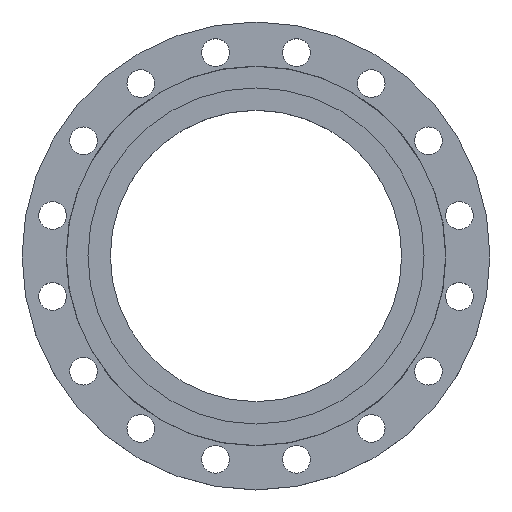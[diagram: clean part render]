
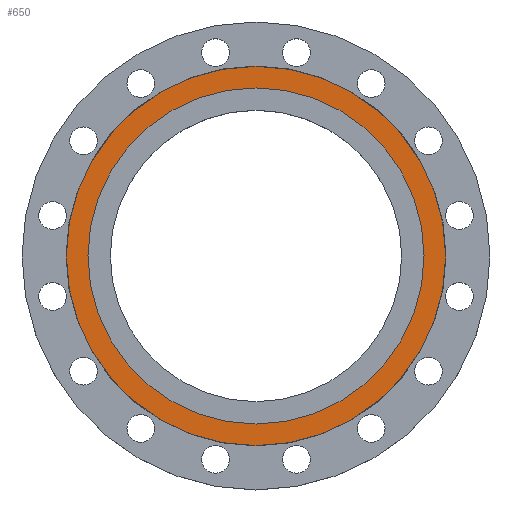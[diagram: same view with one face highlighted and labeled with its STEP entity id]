
A CAD part, top view. The second image highlights one B-rep face of the part: STEP entity #650.
In plain terms, the highlighted planar face has unit normal (0, 0, 1).
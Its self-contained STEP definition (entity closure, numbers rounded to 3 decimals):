
#13 = EDGE_CURVE ( 'NONE', #863, #1200, #429, .T. ) ;
#203 = DIRECTION ( 'NONE',  ( -1., 0., 0. ) ) ;
#207 = DIRECTION ( 'NONE',  ( 0., 0., -1. ) ) ;
#246 = CARTESIAN_POINT ( 'NONE',  ( 0., 0., 0. ) ) ;
#269 = DIRECTION ( 'NONE',  ( 0., 0., -1. ) ) ;
#271 = DIRECTION ( 'NONE',  ( -1., 0., 0. ) ) ;
#300 = CARTESIAN_POINT ( 'NONE',  ( 0., 0., 0. ) ) ;
#326 = AXIS2_PLACEMENT_3D ( 'NONE', #544, #542, #541 ) ;
#362 = CIRCLE ( 'NONE', #1180, 237. ) ;
#429 = CIRCLE ( 'NONE', #439, 237. ) ;
#438 = CARTESIAN_POINT ( 'NONE',  ( -237., 0., 0. ) ) ;
#439 = AXIS2_PLACEMENT_3D ( 'NONE', #772, #770, #769 ) ;
#541 = DIRECTION ( 'NONE',  ( 1., 0., 0. ) ) ;
#542 = DIRECTION ( 'NONE',  ( 0., 0., 1. ) ) ;
#544 = CARTESIAN_POINT ( 'NONE',  ( 0., 0., 0. ) ) ;
#545 = PLANE ( 'NONE',  #326 ) ;
#548 = FACE_BOUND ( 'NONE', #1235, .T. ) ;
#549 = FACE_OUTER_BOUND ( 'NONE', #1273, .T. ) ;
#602 = CARTESIAN_POINT ( 'NONE',  ( -267.5, 0., 0. ) ) ;
#650 = ADVANCED_FACE ( 'NONE', ( #549, #548 ), #545, .T. ) ;
#769 = DIRECTION ( 'NONE',  ( -1., 0., 0. ) ) ;
#770 = DIRECTION ( 'NONE',  ( 0., 0., -1. ) ) ;
#772 = CARTESIAN_POINT ( 'NONE',  ( 0., 0., 0. ) ) ;
#844 = DIRECTION ( 'NONE',  ( -1., 0., 0. ) ) ;
#845 = DIRECTION ( 'NONE',  ( 0., 0., -1. ) ) ;
#848 = CARTESIAN_POINT ( 'NONE',  ( 0., 0., 0. ) ) ;
#863 = VERTEX_POINT ( 'NONE', #438 ) ;
#1043 = EDGE_CURVE ( 'NONE', #1200, #863, #362, .T. ) ;
#1121 = CARTESIAN_POINT ( 'NONE',  ( 267.5, 0., 0. ) ) ;
#1180 = AXIS2_PLACEMENT_3D ( 'NONE', #300, #269, #271 ) ;
#1200 = VERTEX_POINT ( 'NONE', #1624 ) ;
#1235 = EDGE_LOOP ( 'NONE', ( #1522, #1523 ) ) ;
#1259 = VERTEX_POINT ( 'NONE', #1121 ) ;
#1273 = EDGE_LOOP ( 'NONE', ( #1520, #1521 ) ) ;
#1313 = EDGE_CURVE ( 'NONE', #1514, #1259, #1605, .T. ) ;
#1331 = CIRCLE ( 'NONE', #1339, 267.5 ) ;
#1339 = AXIS2_PLACEMENT_3D ( 'NONE', #246, #207, #203 ) ;
#1514 = VERTEX_POINT ( 'NONE', #602 ) ;
#1520 = ORIENTED_EDGE ( 'NONE', *, *, #1313, .F. ) ;
#1521 = ORIENTED_EDGE ( 'NONE', *, *, #1656, .F. ) ;
#1522 = ORIENTED_EDGE ( 'NONE', *, *, #13, .T. ) ;
#1523 = ORIENTED_EDGE ( 'NONE', *, *, #1043, .T. ) ;
#1604 = AXIS2_PLACEMENT_3D ( 'NONE', #848, #845, #844 ) ;
#1605 = CIRCLE ( 'NONE', #1604, 267.5 ) ;
#1624 = CARTESIAN_POINT ( 'NONE',  ( 237., 0., 0. ) ) ;
#1656 = EDGE_CURVE ( 'NONE', #1259, #1514, #1331, .T. ) ;
